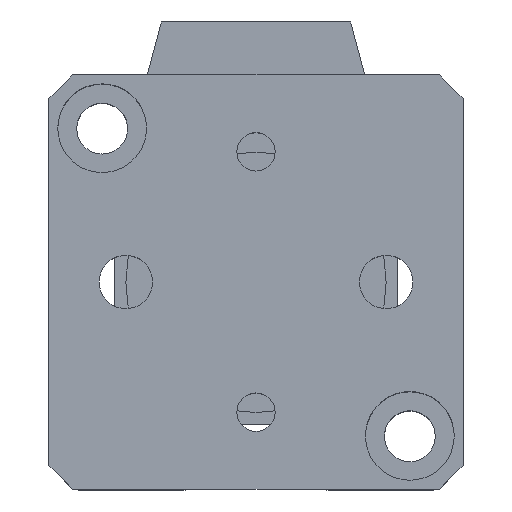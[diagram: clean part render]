
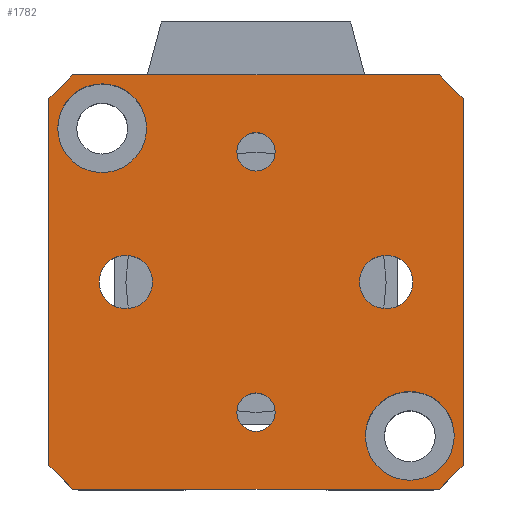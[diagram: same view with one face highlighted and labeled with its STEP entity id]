
A CAD part, top view. The second image highlights one B-rep face of the part: STEP entity #1782.
In plain terms, the highlighted planar face has unit normal (0, 0, 1).
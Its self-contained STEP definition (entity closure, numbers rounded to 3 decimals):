
#153=LINE('',#2929,#293);
#155=LINE('',#2933,#295);
#157=LINE('',#2937,#297);
#159=LINE('',#2941,#299);
#161=LINE('',#2945,#301);
#163=LINE('',#2949,#303);
#165=LINE('',#2953,#305);
#167=LINE('',#2956,#307);
#293=VECTOR('',#2424,31.);
#295=VECTOR('',#2428,2.828);
#297=VECTOR('',#2432,31.);
#299=VECTOR('',#2436,2.828);
#301=VECTOR('',#2440,31.);
#303=VECTOR('',#2444,2.828);
#305=VECTOR('',#2448,31.);
#307=VECTOR('',#2452,2.828);
#381=PLANE('',#1964);
#471=FACE_BOUND('',#744,.T.);
#472=FACE_BOUND('',#745,.T.);
#473=FACE_BOUND('',#746,.T.);
#474=FACE_BOUND('',#747,.T.);
#475=FACE_BOUND('',#748,.T.);
#476=FACE_BOUND('',#749,.T.);
#477=FACE_BOUND('',#750,.T.);
#744=EDGE_LOOP('',(#1598));
#745=EDGE_LOOP('',(#1599));
#746=EDGE_LOOP('',(#1600));
#747=EDGE_LOOP('',(#1601));
#748=EDGE_LOOP('',(#1602));
#749=EDGE_LOOP('',(#1603));
#750=EDGE_LOOP('',(#1604,#1605,#1606,#1607,#1608,#1609,#1610,#1611));
#807=CIRCLE('',#1920,1.621);
#809=CIRCLE('',#1923,1.621);
#814=CIRCLE('',#1931,2.25);
#818=CIRCLE('',#1938,2.25);
#819=CIRCLE('',#1940,3.75);
#821=CIRCLE('',#1943,3.75);
#951=VERTEX_POINT('',#2847);
#953=VERTEX_POINT('',#2852);
#958=VERTEX_POINT('',#2865);
#962=VERTEX_POINT('',#2876);
#963=VERTEX_POINT('',#2879);
#965=VERTEX_POINT('',#2884);
#983=VERTEX_POINT('',#2926);
#984=VERTEX_POINT('',#2928);
#985=VERTEX_POINT('',#2932);
#986=VERTEX_POINT('',#2936);
#987=VERTEX_POINT('',#2940);
#988=VERTEX_POINT('',#2944);
#989=VERTEX_POINT('',#2948);
#990=VERTEX_POINT('',#2952);
#1153=EDGE_CURVE('',#951,#951,#807,.T.);
#1155=EDGE_CURVE('',#953,#953,#809,.T.);
#1160=EDGE_CURVE('',#958,#958,#814,.T.);
#1164=EDGE_CURVE('',#962,#962,#818,.T.);
#1165=EDGE_CURVE('',#963,#963,#819,.T.);
#1167=EDGE_CURVE('',#965,#965,#821,.T.);
#1186=EDGE_CURVE('',#984,#983,#153,.T.);
#1188=EDGE_CURVE('',#985,#984,#155,.T.);
#1190=EDGE_CURVE('',#986,#985,#157,.T.);
#1192=EDGE_CURVE('',#987,#986,#159,.T.);
#1194=EDGE_CURVE('',#988,#987,#161,.T.);
#1196=EDGE_CURVE('',#989,#988,#163,.T.);
#1198=EDGE_CURVE('',#990,#989,#165,.T.);
#1200=EDGE_CURVE('',#983,#990,#167,.T.);
#1598=ORIENTED_EDGE('',*,*,#1153,.T.);
#1599=ORIENTED_EDGE('',*,*,#1155,.T.);
#1600=ORIENTED_EDGE('',*,*,#1160,.T.);
#1601=ORIENTED_EDGE('',*,*,#1164,.T.);
#1602=ORIENTED_EDGE('',*,*,#1165,.T.);
#1603=ORIENTED_EDGE('',*,*,#1167,.T.);
#1604=ORIENTED_EDGE('',*,*,#1200,.T.);
#1605=ORIENTED_EDGE('',*,*,#1198,.T.);
#1606=ORIENTED_EDGE('',*,*,#1196,.T.);
#1607=ORIENTED_EDGE('',*,*,#1194,.T.);
#1608=ORIENTED_EDGE('',*,*,#1192,.T.);
#1609=ORIENTED_EDGE('',*,*,#1190,.T.);
#1610=ORIENTED_EDGE('',*,*,#1188,.T.);
#1611=ORIENTED_EDGE('',*,*,#1186,.T.);
#1782=ADVANCED_FACE('',(#471,#472,#473,#474,#475,#476,#477),#381,.T.);
#1920=AXIS2_PLACEMENT_3D('',#2848,#2339,#2340);
#1923=AXIS2_PLACEMENT_3D('',#2853,#2345,#2346);
#1931=AXIS2_PLACEMENT_3D('',#2866,#2361,#2362);
#1938=AXIS2_PLACEMENT_3D('',#2877,#2375,#2376);
#1940=AXIS2_PLACEMENT_3D('',#2880,#2379,#2380);
#1943=AXIS2_PLACEMENT_3D('',#2885,#2385,#2386);
#1964=AXIS2_PLACEMENT_3D('',#2957,#2453,#2454);
#2339=DIRECTION('center_axis',(0.,0.,-1.));
#2340=DIRECTION('ref_axis',(-1.,0.,0.));
#2345=DIRECTION('center_axis',(0.,0.,-1.));
#2346=DIRECTION('ref_axis',(-1.,0.,0.));
#2361=DIRECTION('center_axis',(0.,0.,-1.));
#2362=DIRECTION('ref_axis',(-1.,0.,0.));
#2375=DIRECTION('center_axis',(0.,0.,-1.));
#2376=DIRECTION('ref_axis',(-1.,0.,0.));
#2379=DIRECTION('center_axis',(0.,0.,-1.));
#2380=DIRECTION('ref_axis',(-1.,0.,0.));
#2385=DIRECTION('center_axis',(0.,0.,-1.));
#2386=DIRECTION('ref_axis',(-1.,0.,0.));
#2424=DIRECTION('',(0.,1.,0.));
#2428=DIRECTION('',(0.707,0.707,0.));
#2432=DIRECTION('',(1.,0.,0.));
#2436=DIRECTION('',(0.707,-0.707,0.));
#2440=DIRECTION('',(0.,-1.,0.));
#2444=DIRECTION('',(-0.707,-0.707,0.));
#2448=DIRECTION('',(-1.,0.,0.));
#2452=DIRECTION('',(-0.707,0.707,0.));
#2453=DIRECTION('center_axis',(0.,0.,1.));
#2454=DIRECTION('ref_axis',(1.,0.,0.));
#2847=CARTESIAN_POINT('',(-9.379,0.,23.5));
#2848=CARTESIAN_POINT('Origin',(-11.,0.,23.5));
#2852=CARTESIAN_POINT('',(12.621,0.,23.5));
#2853=CARTESIAN_POINT('Origin',(11.,0.,23.5));
#2865=CARTESIAN_POINT('',(2.25,-11.,23.5));
#2866=CARTESIAN_POINT('Origin',(0.,-11.,23.5));
#2876=CARTESIAN_POINT('',(2.25,11.,23.5));
#2877=CARTESIAN_POINT('Origin',(0.,11.,23.5));
#2879=CARTESIAN_POINT('',(-9.25,-13.,23.5));
#2880=CARTESIAN_POINT('Origin',(-13.,-13.,23.5));
#2884=CARTESIAN_POINT('',(16.75,13.,23.5));
#2885=CARTESIAN_POINT('Origin',(13.,13.,23.5));
#2926=CARTESIAN_POINT('',(17.5,15.5,23.5));
#2928=CARTESIAN_POINT('',(17.5,-15.5,23.5));
#2929=CARTESIAN_POINT('',(17.5,15.5,23.5));
#2932=CARTESIAN_POINT('',(15.5,-17.5,23.5));
#2933=CARTESIAN_POINT('',(17.5,-15.5,23.5));
#2936=CARTESIAN_POINT('',(-15.5,-17.5,23.5));
#2937=CARTESIAN_POINT('',(15.5,-17.5,23.5));
#2940=CARTESIAN_POINT('',(-17.5,-15.5,23.5));
#2941=CARTESIAN_POINT('',(-15.5,-17.5,23.5));
#2944=CARTESIAN_POINT('',(-17.5,15.5,23.5));
#2945=CARTESIAN_POINT('',(-17.5,-15.5,23.5));
#2948=CARTESIAN_POINT('',(-15.5,17.5,23.5));
#2949=CARTESIAN_POINT('',(-17.5,15.5,23.5));
#2952=CARTESIAN_POINT('',(15.5,17.5,23.5));
#2953=CARTESIAN_POINT('',(-15.5,17.5,23.5));
#2956=CARTESIAN_POINT('',(15.5,17.5,23.5));
#2957=CARTESIAN_POINT('Origin',(0.,0.,
23.5));
